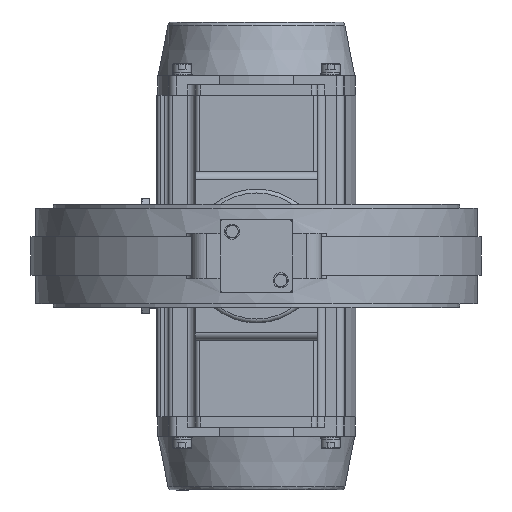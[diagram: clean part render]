
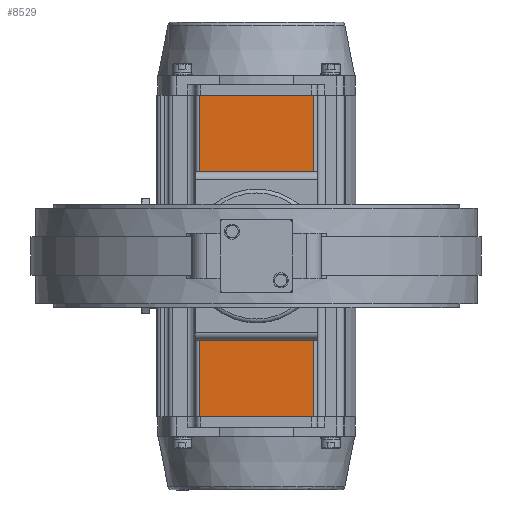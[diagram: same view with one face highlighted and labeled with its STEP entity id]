
A CAD part, front view. The second image highlights one B-rep face of the part: STEP entity #8529.
In plain terms, the highlighted planar face has unit normal (0, -1, 0).
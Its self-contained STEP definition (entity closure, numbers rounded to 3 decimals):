
#532 = CIRCLE ( 'NONE', #46522, 9.5 ) ;
#1922 = EDGE_CURVE ( 'NONE', #34492, #3406, #532, .T. ) ;
#1947 = EDGE_CURVE ( 'NONE', #3406, #34492, #9411, .T. ) ;
#1993 = AXIS2_PLACEMENT_3D ( 'NONE', #48380, #36443, #9645 ) ;
#3406 = VERTEX_POINT ( 'NONE', #8899 ) ;
#3452 = ORIENTED_EDGE ( 'NONE', *, *, #39496, .T. ) ;
#3613 = EDGE_CURVE ( 'NONE', #29656, #12693, #45405, .T. ) ;
#3734 = CARTESIAN_POINT ( 'NONE',  ( -58.336, 562., 58.336 ) ) ;
#4024 = LINE ( 'NONE', #4505, #15341 ) ;
#4097 = FACE_OUTER_BOUND ( 'NONE', #23791, .T. ) ;
#4505 = CARTESIAN_POINT ( 'NONE',  ( 80., 562., 210. ) ) ;
#4938 = CIRCLE ( 'NONE', #41145, 9.5 ) ;
#5124 = CARTESIAN_POINT ( 'NONE',  ( 58.336, 562., -67.836 ) ) ;
#5463 = EDGE_CURVE ( 'NONE', #11602, #40956, #35846, .T. ) ;
#5570 = ORIENTED_EDGE ( 'NONE', *, *, #30842, .T. ) ;
#6131 = VECTOR ( 'NONE', #6638, 1000. ) ;
#6638 = DIRECTION ( 'NONE',  ( 1., 0., 0. ) ) ;
#7007 = AXIS2_PLACEMENT_3D ( 'NONE', #45073, #45240, #37598 ) ;
#8456 = ORIENTED_EDGE ( 'NONE', *, *, #13470, .T. ) ;
#8472 = CARTESIAN_POINT ( 'NONE',  ( 58.336, 562., -58.336 ) ) ;
#8529 = ADVANCED_FACE ( 'NONE', ( #28000, #38251, #17756, #42996, #39425, #4097 ), #13486, .T. ) ;
#8804 = CARTESIAN_POINT ( 'NONE',  ( 58.336, 562., 67.836 ) ) ;
#8899 = CARTESIAN_POINT ( 'NONE',  ( 58.336, 562., 48.836 ) ) ;
#9411 = CIRCLE ( 'NONE', #28599, 9.5 ) ;
#9473 = EDGE_CURVE ( 'NONE', #39630, #21381, #20914, .T. ) ;
#9578 = VECTOR ( 'NONE', #19680, 1000. ) ;
#9645 = DIRECTION ( 'NONE',  ( 0., 0., 1. ) ) ;
#9829 = DIRECTION ( 'NONE',  ( 0., 0., 1. ) ) ;
#10896 = VERTEX_POINT ( 'NONE', #43812 ) ;
#11116 = AXIS2_PLACEMENT_3D ( 'NONE', #40618, #32799, #9829 ) ;
#11602 = VERTEX_POINT ( 'NONE', #34371 ) ;
#12280 = AXIS2_PLACEMENT_3D ( 'NONE', #3734, #41844, #49480 ) ;
#12693 = VERTEX_POINT ( 'NONE', #31260 ) ;
#12804 = DIRECTION ( 'NONE',  ( -1., 0., 0. ) ) ;
#13290 = AXIS2_PLACEMENT_3D ( 'NONE', #8472, #46907, #47069 ) ;
#13470 = EDGE_CURVE ( 'NONE', #40956, #39630, #4024, .T. ) ;
#13486 = PLANE ( 'NONE',  #22141 ) ;
#14201 = ORIENTED_EDGE ( 'NONE', *, *, #21402, .T. ) ;
#14230 = ORIENTED_EDGE ( 'NONE', *, *, #27482, .T. ) ;
#14631 = DIRECTION ( 'NONE',  ( 0., -1., 0. ) ) ;
#14790 = DIRECTION ( 'NONE',  ( 0., 0., 1. ) ) ;
#15341 = VECTOR ( 'NONE', #12804, 1000. ) ;
#15483 = EDGE_LOOP ( 'NONE', ( #23816, #14230 ) ) ;
#16050 = CARTESIAN_POINT ( 'NONE',  ( -58.336, 562., -48.836 ) ) ;
#17756 = FACE_BOUND ( 'NONE', #28512, .T. ) ;
#18056 = CARTESIAN_POINT ( 'NONE',  ( 58.336, 562., 58.336 ) ) ;
#18298 = DIRECTION ( 'NONE',  ( 0., 1., 0. ) ) ;
#18343 = EDGE_LOOP ( 'NONE', ( #20304, #22679 ) ) ;
#18466 = CARTESIAN_POINT ( 'NONE',  ( 80., 562., -210. ) ) ;
#19680 = DIRECTION ( 'NONE',  ( 0., 0., -1. ) ) ;
#19801 = CARTESIAN_POINT ( 'NONE',  ( 75., 562., 210. ) ) ;
#20304 = ORIENTED_EDGE ( 'NONE', *, *, #1922, .T. ) ;
#20504 = DIRECTION ( 'NONE',  ( 0., 1., 0. ) ) ;
#20725 = EDGE_CURVE ( 'NONE', #29907, #10896, #30847, .T. ) ;
#20914 = LINE ( 'NONE', #28073, #9578 ) ;
#21381 = VERTEX_POINT ( 'NONE', #25518 ) ;
#21402 = EDGE_CURVE ( 'NONE', #21381, #11602, #37259, .T. ) ;
#21632 = ORIENTED_EDGE ( 'NONE', *, *, #9473, .T. ) ;
#22113 = DIRECTION ( 'NONE',  ( 0., 0., 1. ) ) ;
#22141 = AXIS2_PLACEMENT_3D ( 'NONE', #37630, #14631, #26359 ) ;
#22180 = DIRECTION ( 'NONE',  ( 0., 0., 1. ) ) ;
#22679 = ORIENTED_EDGE ( 'NONE', *, *, #1947, .T. ) ;
#23791 = EDGE_LOOP ( 'NONE', ( #8456, #21632, #14201, #48118 ) ) ;
#23816 = ORIENTED_EDGE ( 'NONE', *, *, #30782, .T. ) ;
#24134 = EDGE_LOOP ( 'NONE', ( #33151, #3452 ) ) ;
#24380 = DIRECTION ( 'NONE',  ( 0., 1., 0. ) ) ;
#24689 = DIRECTION ( 'NONE',  ( 0., 0., 1. ) ) ;
#25518 = CARTESIAN_POINT ( 'NONE',  ( -75., 562., -210. ) ) ;
#25949 = DIRECTION ( 'NONE',  ( 0., 1., 0. ) ) ;
#26359 = DIRECTION ( 'NONE',  ( 0., 0., 1. ) ) ;
#26382 = CARTESIAN_POINT ( 'NONE',  ( 0., 562., 51. ) ) ;
#26647 = ORIENTED_EDGE ( 'NONE', *, *, #3613, .T. ) ;
#27482 = EDGE_CURVE ( 'NONE', #33735, #38254, #35339, .T. ) ;
#27629 = CIRCLE ( 'NONE', #7007, 51. ) ;
#28000 = FACE_BOUND ( 'NONE', #39402, .T. ) ;
#28073 = CARTESIAN_POINT ( 'NONE',  ( -75., 562., 210. ) ) ;
#28512 = EDGE_LOOP ( 'NONE', ( #40569, #29438 ) ) ;
#28599 = AXIS2_PLACEMENT_3D ( 'NONE', #18056, #25949, #22113 ) ;
#29226 = VECTOR ( 'NONE', #14790, 1000. ) ;
#29245 = CARTESIAN_POINT ( 'NONE',  ( -58.336, 562., -58.336 ) ) ;
#29438 = ORIENTED_EDGE ( 'NONE', *, *, #20725, .T. ) ;
#29656 = VERTEX_POINT ( 'NONE', #5124 ) ;
#29907 = VERTEX_POINT ( 'NONE', #38439 ) ;
#30241 = EDGE_CURVE ( 'NONE', #10896, #29907, #40338, .T. ) ;
#30259 = CARTESIAN_POINT ( 'NONE',  ( -75., 562., 210. ) ) ;
#30782 = EDGE_CURVE ( 'NONE', #38254, #33735, #34885, .T. ) ;
#30842 = EDGE_CURVE ( 'NONE', #12693, #29656, #4938, .T. ) ;
#30847 = CIRCLE ( 'NONE', #1993, 9.5 ) ;
#31260 = CARTESIAN_POINT ( 'NONE',  ( 58.336, 562., -48.836 ) ) ;
#32799 = DIRECTION ( 'NONE',  ( 0., 1., 0. ) ) ;
#33151 = ORIENTED_EDGE ( 'NONE', *, *, #33162, .T. ) ;
#33162 = EDGE_CURVE ( 'NONE', #49230, #46211, #27629, .T. ) ;
#33735 = VERTEX_POINT ( 'NONE', #47828 ) ;
#33938 = CARTESIAN_POINT ( 'NONE',  ( 58.336, 562., -58.336 ) ) ;
#34371 = CARTESIAN_POINT ( 'NONE',  ( 75., 562., -210. ) ) ;
#34492 = VERTEX_POINT ( 'NONE', #8804 ) ;
#34885 = CIRCLE ( 'NONE', #38643, 9.5 ) ;
#35339 = CIRCLE ( 'NONE', #37833, 9.5 ) ;
#35846 = LINE ( 'NONE', #45264, #29226 ) ;
#36302 = DIRECTION ( 'NONE',  ( 0., 0., 1. ) ) ;
#36443 = DIRECTION ( 'NONE',  ( 0., 1., 0. ) ) ;
#36754 = CARTESIAN_POINT ( 'NONE',  ( 0., 562., -51. ) ) ;
#37259 = LINE ( 'NONE', #18466, #6131 ) ;
#37598 = DIRECTION ( 'NONE',  ( 0., 0., 1. ) ) ;
#37630 = CARTESIAN_POINT ( 'NONE',  ( 80., 562., 210. ) ) ;
#37833 = AXIS2_PLACEMENT_3D ( 'NONE', #43312, #20504, #36302 ) ;
#38251 = FACE_BOUND ( 'NONE', #18343, .T. ) ;
#38254 = VERTEX_POINT ( 'NONE', #16050 ) ;
#38289 = CIRCLE ( 'NONE', #11116, 51. ) ;
#38439 = CARTESIAN_POINT ( 'NONE',  ( -58.336, 562., 48.836 ) ) ;
#38643 = AXIS2_PLACEMENT_3D ( 'NONE', #29245, #18298, #22180 ) ;
#39402 = EDGE_LOOP ( 'NONE', ( #5570, #26647 ) ) ;
#39425 = FACE_BOUND ( 'NONE', #24134, .T. ) ;
#39496 = EDGE_CURVE ( 'NONE', #46211, #49230, #38289, .T. ) ;
#39630 = VERTEX_POINT ( 'NONE', #30259 ) ;
#39664 = CARTESIAN_POINT ( 'NONE',  ( 58.336, 562., 58.336 ) ) ;
#40338 = CIRCLE ( 'NONE', #12280, 9.5 ) ;
#40569 = ORIENTED_EDGE ( 'NONE', *, *, #30241, .T. ) ;
#40618 = CARTESIAN_POINT ( 'NONE',  ( 0., 562., 0. ) ) ;
#40956 = VERTEX_POINT ( 'NONE', #19801 ) ;
#41145 = AXIS2_PLACEMENT_3D ( 'NONE', #33938, #49407, #49229 ) ;
#41844 = DIRECTION ( 'NONE',  ( 0., 1., 0. ) ) ;
#42996 = FACE_BOUND ( 'NONE', #15483, .T. ) ;
#43312 = CARTESIAN_POINT ( 'NONE',  ( -58.336, 562., -58.336 ) ) ;
#43812 = CARTESIAN_POINT ( 'NONE',  ( -58.336, 562., 67.836 ) ) ;
#45073 = CARTESIAN_POINT ( 'NONE',  ( 0., 562., 0. ) ) ;
#45240 = DIRECTION ( 'NONE',  ( 0., 1., 0. ) ) ;
#45264 = CARTESIAN_POINT ( 'NONE',  ( 75., 562., 210. ) ) ;
#45405 = CIRCLE ( 'NONE', #13290, 9.5 ) ;
#46211 = VERTEX_POINT ( 'NONE', #36754 ) ;
#46522 = AXIS2_PLACEMENT_3D ( 'NONE', #39664, #24380, #24689 ) ;
#46907 = DIRECTION ( 'NONE',  ( 0., 1., 0. ) ) ;
#47069 = DIRECTION ( 'NONE',  ( 0., 0., 1. ) ) ;
#47828 = CARTESIAN_POINT ( 'NONE',  ( -58.336, 562., -67.836 ) ) ;
#48118 = ORIENTED_EDGE ( 'NONE', *, *, #5463, .T. ) ;
#48380 = CARTESIAN_POINT ( 'NONE',  ( -58.336, 562., 58.336 ) ) ;
#49229 = DIRECTION ( 'NONE',  ( 0., 0., 1. ) ) ;
#49230 = VERTEX_POINT ( 'NONE', #26382 ) ;
#49407 = DIRECTION ( 'NONE',  ( 0., 1., 0. ) ) ;
#49480 = DIRECTION ( 'NONE',  ( 0., 0., 1. ) ) ;
